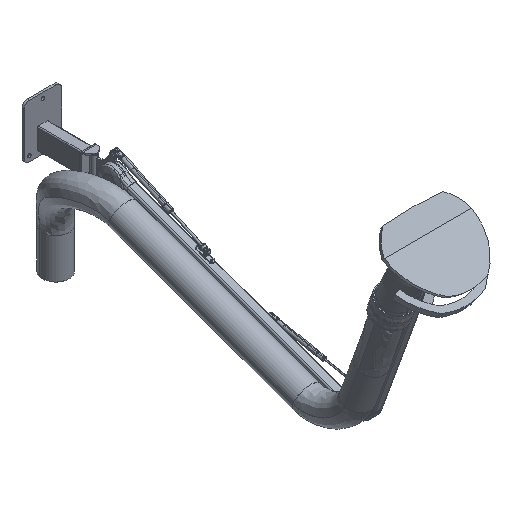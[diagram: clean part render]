
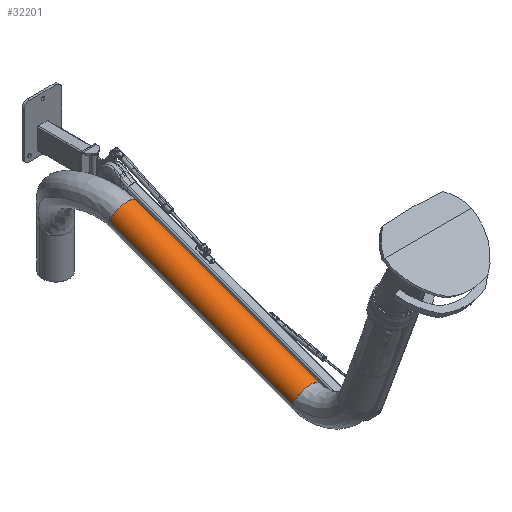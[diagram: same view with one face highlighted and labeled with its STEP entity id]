
A CAD part, isometric view. The second image highlights one B-rep face of the part: STEP entity #32201.
In plain terms, the highlighted free-form (B-spline) face has degree [3, 3] with [7, 6] control points.
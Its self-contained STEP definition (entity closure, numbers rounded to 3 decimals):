
#30899=CARTESIAN_POINT('',(-70.,880.727,-575.));
#30900=DIRECTION('',(0.,1.,0.));
#30901=DIRECTION('',(-1.,0.,0.));
#30902=AXIS2_PLACEMENT_3D('',#30899,#30900,#30901);
#30976=CARTESIAN_POINT('',(-70.,150.,-575.));
#30977=DIRECTION('',(0.,1.,0.));
#30978=DIRECTION('',(-1.,0.,0.));
#30979=AXIS2_PLACEMENT_3D('',#30976,#30977,#30978);
#30984=CARTESIAN_POINT('',(-120.,150.,-575.));
#30985=CARTESIAN_POINT('',(-120.,231.192,
-575.));
#30986=CARTESIAN_POINT('',(-120.,393.576,
-575.));
#30987=CARTESIAN_POINT('',(-120.,637.152,
-575.));
#30988=CARTESIAN_POINT('',(-120.,799.535,
-575.));
#30989=CARTESIAN_POINT('',(-120.,880.727,
-575.));
#31213=CARTESIAN_POINT('',(-20.,150.,-575.));
#31214=CARTESIAN_POINT('',(-20.,231.192,
-575.));
#31215=CARTESIAN_POINT('',(-20.,393.576,
-575.));
#31216=CARTESIAN_POINT('',(-20.,637.152,
-575.));
#31217=CARTESIAN_POINT('',(-20.,799.535,
-575.));
#31218=CARTESIAN_POINT('',(-20.,880.727,
-575.));
#31796=CARTESIAN_POINT('',(-20.,150.,-575.));
#31797=CARTESIAN_POINT('',(-120.,150.,-575.));
#31798=VERTEX_POINT('',#31796);
#31799=VERTEX_POINT('',#31797);
#31804=VERTEX_POINT('',#31218);
#31805=VERTEX_POINT('',#30989);
#32149=CARTESIAN_POINT('',(-119.901,135.385,
-578.139));
#32150=CARTESIAN_POINT('',(-119.901,140.257,
-578.139));
#32151=CARTESIAN_POINT('',(-119.901,388.704,
-578.139));
#32152=CARTESIAN_POINT('',(-119.901,642.023,
-578.139));
#32153=CARTESIAN_POINT('',(-119.901,890.47,
-578.139));
#32154=CARTESIAN_POINT('',(-119.901,895.342,
-578.139));
#32155=CARTESIAN_POINT('',(-121.833,135.385,
-547.43));
#32156=CARTESIAN_POINT('',(-121.833,140.257,
-547.43));
#32157=CARTESIAN_POINT('',(-121.833,388.704,
-547.43));
#32158=CARTESIAN_POINT('',(-121.833,642.023,
-547.43));
#32159=CARTESIAN_POINT('',(-121.833,890.47,
-547.43));
#32160=CARTESIAN_POINT('',(-121.833,895.342,
-547.43));
#32161=CARTESIAN_POINT('',(-100.77,135.385,
-525.));
#32162=CARTESIAN_POINT('',(-100.77,140.257,
-525.));
#32163=CARTESIAN_POINT('',(-100.77,388.704,
-525.));
#32164=CARTESIAN_POINT('',(-100.77,642.023,
-525.));
#32165=CARTESIAN_POINT('',(-100.77,890.47,
-525.));
#32166=CARTESIAN_POINT('',(-100.77,895.342,
-525.));
#32167=CARTESIAN_POINT('',(-70.,135.385,
-525.));
#32168=CARTESIAN_POINT('',(-70.,140.257,
-525.));
#32169=CARTESIAN_POINT('',(-70.,388.704,
-525.));
#32170=CARTESIAN_POINT('',(-70.,642.023,
-525.));
#32171=CARTESIAN_POINT('',(-70.,890.47,
-525.));
#32172=CARTESIAN_POINT('',(-70.,895.342,
-525.));
#32173=CARTESIAN_POINT('',(-39.23,135.385,
-525.));
#32174=CARTESIAN_POINT('',(-39.23,140.257,
-525.));
#32175=CARTESIAN_POINT('',(-39.23,388.704,
-525.));
#32176=CARTESIAN_POINT('',(-39.23,642.023,
-525.));
#32177=CARTESIAN_POINT('',(-39.23,890.47,
-525.));
#32178=CARTESIAN_POINT('',(-39.23,895.342,
-525.));
#32179=CARTESIAN_POINT('',(-18.167,135.385,
-547.43));
#32180=CARTESIAN_POINT('',(-18.167,140.257,
-547.43));
#32181=CARTESIAN_POINT('',(-18.167,388.704,
-547.43));
#32182=CARTESIAN_POINT('',(-18.167,642.023,
-547.43));
#32183=CARTESIAN_POINT('',(-18.167,890.47,
-547.43));
#32184=CARTESIAN_POINT('',(-18.167,895.342,
-547.43));
#32185=CARTESIAN_POINT('',(-20.099,135.385,
-578.14));
#32186=CARTESIAN_POINT('',(-20.099,140.257,
-578.14));
#32187=CARTESIAN_POINT('',(-20.099,388.704,
-578.14));
#32188=CARTESIAN_POINT('',(-20.099,642.023,
-578.14));
#32189=CARTESIAN_POINT('',(-20.099,890.47,
-578.14));
#32190=CARTESIAN_POINT('',(-20.099,895.342,
-578.14));
#32191=(BOUNDED_SURFACE()B_SPLINE_SURFACE(3,3,((#32149,#32150,#32151,#32152,
#32153,#32154),(#32155,#32156,#32157,#32158,#32159,#32160),(#32161,#32162,
#32163,#32164,#32165,#32166),(#32167,#32168,#32169,#32170,#32171,#32172),
(#32173,#32174,#32175,#32176,#32177,#32178),(#32179,#32180,#32181,#32182,#32183,
#32184),(#32185,#32186,#32187,#32188,#32189,#32190)),.UNSPECIFIED.,.F.,.F.,.F.)B_SPLINE_SURFACE_WITH_KNOTS((4,3,4),(4,1,1,4),(0.,1.,2.),(-0.02,0.,1.,
1.02),.UNSPECIFIED.)GEOMETRIC_REPRESENTATION_ITEM()RATIONAL_B_SPLINE_SURFACE((
(1.187,1.187,1.187,1.187,
1.187,1.187),(0.938,0.938,
0.938,0.938,0.938,0.938),(
0.938,0.938,0.938,0.938,
0.938,0.938),(1.187,1.187,
1.187,1.187,1.187,1.187),(
0.938,0.938,0.938,0.938,
0.938,0.938),(0.938,0.938,
0.938,0.938,0.938,0.938),(
1.187,1.187,1.187,1.187,
1.187,1.187)))REPRESENTATION_ITEM('')SURFACE());
#32193=ORIENTED_EDGE('',*,*,#32192,.F.);
#32195=ORIENTED_EDGE('',*,*,#32194,.T.);
#32196=ORIENTED_EDGE('',*,*,#32139,.T.);
#32198=ORIENTED_EDGE('',*,*,#32197,.F.);
#32199=EDGE_LOOP('',(#32193,#32195,#32196,#32198));
#32200=FACE_OUTER_BOUND('',#32199,.F.);
#30903=CIRCLE('',#30902,50.);
#30980=CIRCLE('',#30979,50.);
#30990=B_SPLINE_CURVE_WITH_KNOTS('',3,(#30984,#30985,#30986,#30987,#30988,
#30989),.UNSPECIFIED.,.F.,.F.,(4,1,1,4),(0.,0.333,
0.667,1.),.UNSPECIFIED.);
#31219=B_SPLINE_CURVE_WITH_KNOTS('',3,(#31213,#31214,#31215,#31216,#31217,
#31218),.UNSPECIFIED.,.F.,.F.,(4,1,1,4),(0.,0.333,
0.667,1.),.UNSPECIFIED.);
#32139=EDGE_CURVE('',#31805,#31804,#30903,.T.);
#32192=EDGE_CURVE('',#31799,#31798,#30980,.T.);
#32194=EDGE_CURVE('',#31799,#31805,#30990,.T.);
#32197=EDGE_CURVE('',#31798,#31804,#31219,.T.);
#32201=ADVANCED_FACE('',(#32200),#32191,.T.);
